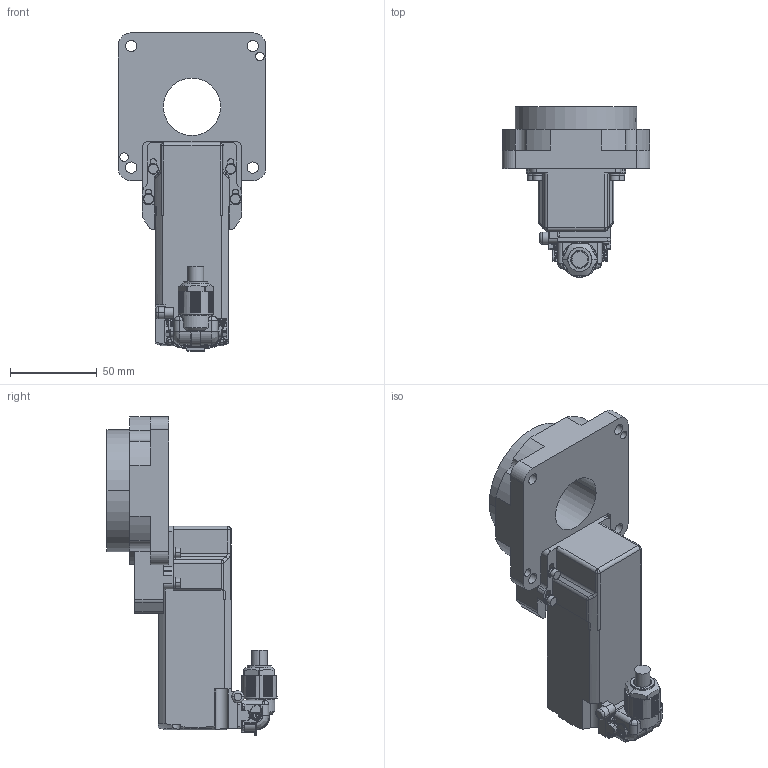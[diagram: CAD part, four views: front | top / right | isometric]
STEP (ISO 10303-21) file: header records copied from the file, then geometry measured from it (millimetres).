
FILE_DESCRIPTION (( 'STEP AP203' ), '1' );
FILE_NAME ('DGR85R36-AZACHD_F.step', '2025-11-19T07:27:46', ( '' ), ( '' ), 'SwSTEP 2.0', 'SolidWorks 2023', '' );
FILE_SCHEMA (( 'CONFIG_CONTROL_DESIGN' ));
Length unit declared in the file: millimetre
Products named in the file (3): DGR85R36-AZACHD_F_Moving part; DGR85R36-AZACHD_F_Base; DGR85R36-AZACHD_F
Assembly tree (2 placements, depth 2):
  DGR85R36-AZACHD_F
    DGR85R36-AZACHD_F_Base
    DGR85R36-AZACHD_F_Moving part
Bounding box: 85 x 97.8 x 183.05 mm (x, y, z)
Volume: 393977.5 mm3; surface area: 65921.5 mm2
Topology: 3 solids, 7 shells, 1284 faces, 3360 edges, 2072 vertices
Faces by surface type: plane 526, cylinder 515, bspline 154, cone 56, torus 29, sphere 4
Entity records: 43428 total; most frequent: CARTESIAN_POINT 13154, ORIENTED_EDGE 6612, DIRECTION 5887, EDGE_CURVE 3306, AXIS2_PLACEMENT_3D 2078, VERTEX_POINT 2072, LINE 1731, VECTOR 1731
